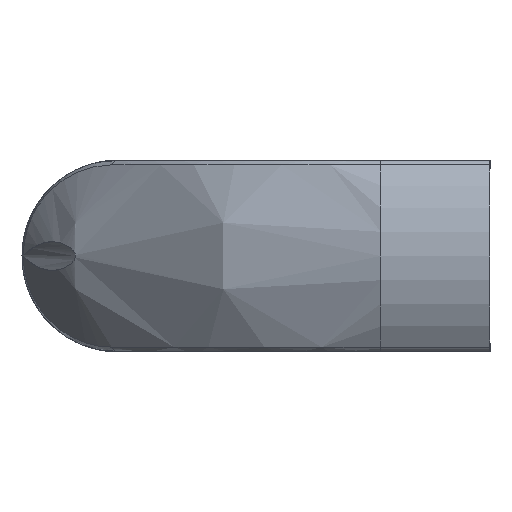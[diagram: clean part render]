
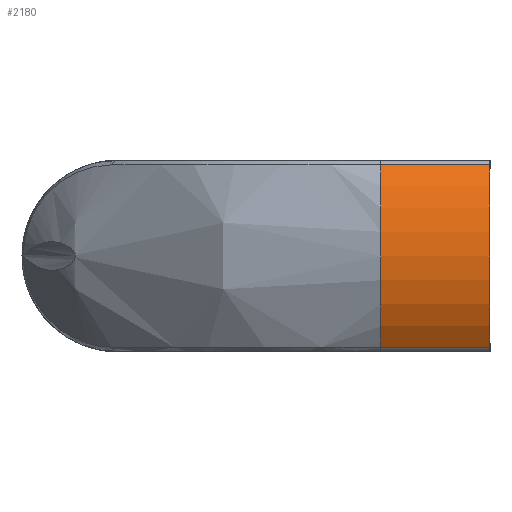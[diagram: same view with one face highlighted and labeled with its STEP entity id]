
A CAD part, left-side view. The second image highlights one B-rep face of the part: STEP entity #2180.
In plain terms, the highlighted cylindrical face has radius 28.521 mm (diameter 57.042 mm), a partial arc.
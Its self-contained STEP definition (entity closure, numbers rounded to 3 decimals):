
#60 = EDGE_CURVE ( 'NONE', #2598, #5822, #2253, .T. ) ;
#202 = CARTESIAN_POINT ( 'NONE',  ( -7.979, 0., 0. ) ) ;
#403 = EDGE_CURVE ( 'NONE', #3321, #547, #1702, .T. ) ;
#487 = CARTESIAN_POINT ( 'NONE',  ( -31.122, 0., 16.669 ) ) ;
#547 = VERTEX_POINT ( 'NONE', #5388 ) ;
#609 = EDGE_LOOP ( 'NONE', ( #3424, #3336, #3283, #3293 ) ) ;
#686 = CARTESIAN_POINT ( 'NONE',  ( -7.979, 20., 0. ) ) ;
#710 = DIRECTION ( 'NONE',  ( 0., 0., 1. ) ) ;
#777 = AXIS2_PLACEMENT_3D ( 'NONE', #686, #3931, #1208 ) ;
#1114 = AXIS2_PLACEMENT_3D ( 'NONE', #202, #3557, #710 ) ;
#1208 = DIRECTION ( 'NONE',  ( 0., 0., 1. ) ) ;
#1499 = CARTESIAN_POINT ( 'NONE',  ( -31.122, 20., -16.669 ) ) ;
#1548 = DIRECTION ( 'NONE',  ( 0., -1., 0. ) ) ;
#1577 = CARTESIAN_POINT ( 'NONE',  ( -7.979, 20., 0. ) ) ;
#1598 = VECTOR ( 'NONE', #3268, 1000. ) ;
#1702 = LINE ( 'NONE', #3624, #1598 ) ;
#1774 = DIRECTION ( 'NONE',  ( 0., 0., -1. ) ) ;
#2031 = VECTOR ( 'NONE', #1548, 1000. ) ;
#2159 = DIRECTION ( 'NONE',  ( 0., -1., 0. ) ) ;
#2180 = ADVANCED_FACE ( 'NONE', ( #3176 ), #3099, .T. ) ;
#2240 = CIRCLE ( 'NONE', #777, 28.521 ) ;
#2253 = LINE ( 'NONE', #1499, #2031 ) ;
#2558 = CARTESIAN_POINT ( 'NONE',  ( -31.122, 20., -16.669 ) ) ;
#2598 = VERTEX_POINT ( 'NONE', #2558 ) ;
#3099 = CYLINDRICAL_SURFACE ( 'NONE', #4068, 28.521 ) ;
#3176 = FACE_OUTER_BOUND ( 'NONE', #609, .T. ) ;
#3268 = DIRECTION ( 'NONE',  ( 0., 1., 0. ) ) ;
#3283 = ORIENTED_EDGE ( 'NONE', *, *, #4630, .T. ) ;
#3293 = ORIENTED_EDGE ( 'NONE', *, *, #403, .T. ) ;
#3321 = VERTEX_POINT ( 'NONE', #487 ) ;
#3336 = ORIENTED_EDGE ( 'NONE', *, *, #60, .T. ) ;
#3424 = ORIENTED_EDGE ( 'NONE', *, *, #4608, .F. ) ;
#3557 = DIRECTION ( 'NONE',  ( 0., 1., 0. ) ) ;
#3624 = CARTESIAN_POINT ( 'NONE',  ( -31.122, 20., 16.669 ) ) ;
#3730 = CIRCLE ( 'NONE', #1114, 28.521 ) ;
#3904 = CARTESIAN_POINT ( 'NONE',  ( -31.122, 0., -16.669 ) ) ;
#3931 = DIRECTION ( 'NONE',  ( 0., 1., 0. ) ) ;
#4068 = AXIS2_PLACEMENT_3D ( 'NONE', #1577, #2159, #1774 ) ;
#4608 = EDGE_CURVE ( 'NONE', #2598, #547, #2240, .T. ) ;
#4630 = EDGE_CURVE ( 'NONE', #5822, #3321, #3730, .T. ) ;
#5388 = CARTESIAN_POINT ( 'NONE',  ( -31.122, 20., 16.669 ) ) ;
#5822 = VERTEX_POINT ( 'NONE', #3904 ) ;
